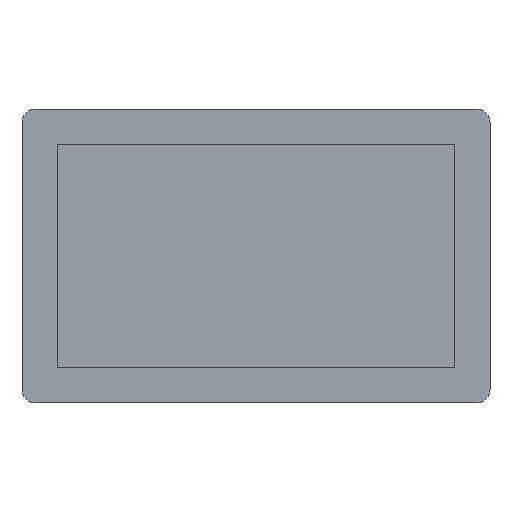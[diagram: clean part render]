
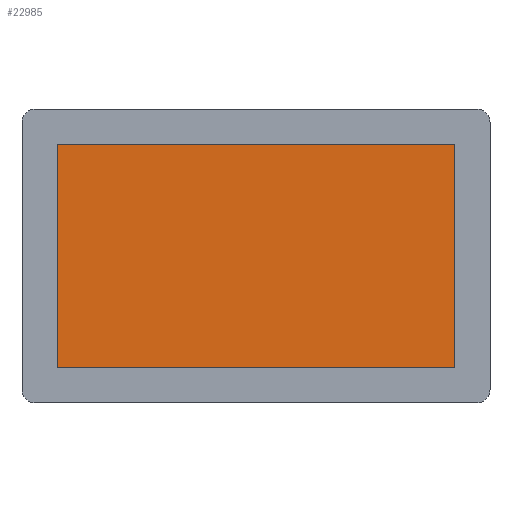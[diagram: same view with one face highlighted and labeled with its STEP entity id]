
A CAD part, top view. The second image highlights one B-rep face of the part: STEP entity #22985.
In plain terms, the highlighted planar face has unit normal (0, 0, 1).
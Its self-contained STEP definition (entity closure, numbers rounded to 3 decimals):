
#7082=DIRECTION('',(0.,-1.,0.));
#7083=VECTOR('',#7082,173.39);
#7084=CARTESIAN_POINT('',(-154.355,86.695,2.25));
#7085=LINE('',#7084,#7083);
#7086=DIRECTION('',(-1.,0.,0.));
#7087=VECTOR('',#7086,308.71);
#7088=CARTESIAN_POINT('',(154.355,86.695,2.25));
#7089=LINE('',#7088,#7087);
#7090=DIRECTION('',(0.,1.,0.));
#7091=VECTOR('',#7090,173.39);
#7092=CARTESIAN_POINT('',(154.355,-86.695,2.25));
#7093=LINE('',#7092,#7091);
#7094=DIRECTION('',(1.,0.,0.));
#7095=VECTOR('',#7094,308.71);
#7096=CARTESIAN_POINT('',(-154.355,-86.695,2.25));
#7097=LINE('',#7096,#7095);
#9998=CARTESIAN_POINT('',(-154.355,86.695,2.25));
#9999=CARTESIAN_POINT('',(-154.355,-86.695,2.25));
#10000=VERTEX_POINT('',#9998);
#10001=VERTEX_POINT('',#9999);
#10002=CARTESIAN_POINT('',(154.355,-86.695,2.25));
#10003=VERTEX_POINT('',#10002);
#10004=CARTESIAN_POINT('',(154.355,86.695,2.25));
#10005=VERTEX_POINT('',#10004);
#22974=CARTESIAN_POINT('',(171.485,-114.125,2.25));
#22975=DIRECTION('',(0.,0.,1.));
#22976=DIRECTION('',(1.,0.,0.));
#22977=AXIS2_PLACEMENT_3D('',#22974,#22975,#22976);
#22978=PLANE('',#22977);
#22979=ORIENTED_EDGE('',*,*,#22926,.F.);
#22980=ORIENTED_EDGE('',*,*,#22941,.F.);
#22981=ORIENTED_EDGE('',*,*,#22955,.F.);
#22982=ORIENTED_EDGE('',*,*,#22968,.F.);
#22983=EDGE_LOOP('',(#22979,#22980,#22981,#22982));
#22984=FACE_OUTER_BOUND('',#22983,.F.);
#22926=EDGE_CURVE('',#10000,#10001,#7085,.T.);
#22941=EDGE_CURVE('',#10005,#10000,#7089,.T.);
#22955=EDGE_CURVE('',#10003,#10005,#7093,.T.);
#22968=EDGE_CURVE('',#10001,#10003,#7097,.T.);
#22985=ADVANCED_FACE('',(#22984),#22978,.T.);
